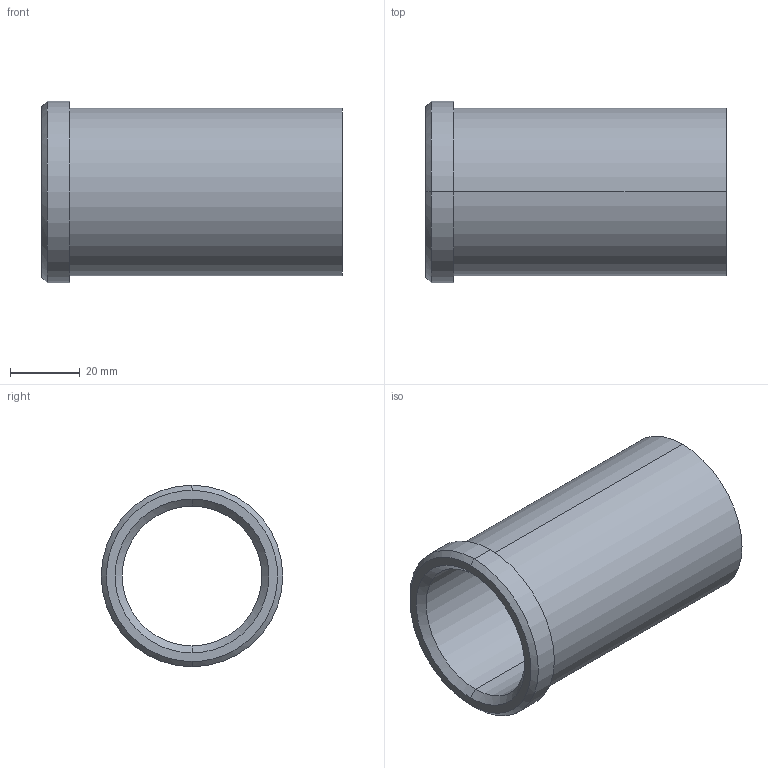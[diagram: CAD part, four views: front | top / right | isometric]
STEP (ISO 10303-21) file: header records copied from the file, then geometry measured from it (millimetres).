
FILE_DESCRIPTION(('CATIA V5 STEP Exchange'),'2;1');
FILE_NAME('C:\Users\Utente\Desktop\IO LAVORO\3D X SITO CF\X SITO\PLASTICA\353\353-40X86.stp','2021-05-13T18:23:38+00:00',('none'),('none'),'CATIA Version 5 Release 20 GA (IN-10)','CATIA V5 STEP AP203','none');
FILE_SCHEMA(('CONFIG_CONTROL_DESIGN'));
Length unit declared in the file: millimetre
Products named in the file (1): 353-40X86
Bounding box: 86 x 52 x 52 mm (x, y, z)
Volume: 49514.2 mm3; surface area: 25215.7 mm2
Topology: 1 solids, 1 shells, 15 faces, 48 edges, 36 vertices
Faces by surface type: cylinder 6, cone 4, plane 3, torus 2
Entity records: 680 total; most frequent: CARTESIAN_POINT 212, ORIENTED_EDGE 96, DIRECTION 70, EDGE_CURVE 48, AXIS2_PLACEMENT_3D 46, VERTEX_POINT 36, CIRCLE 30, EDGE_LOOP 18
